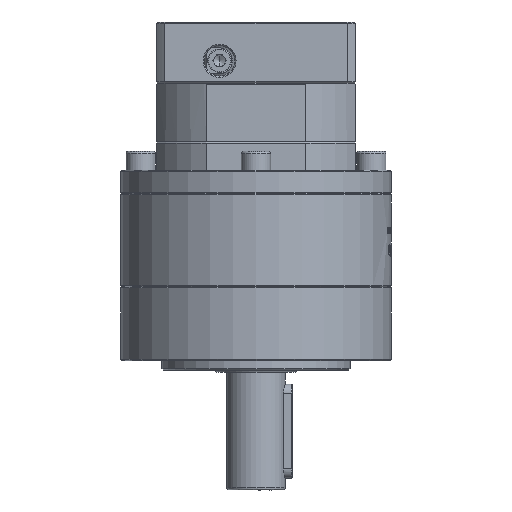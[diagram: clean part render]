
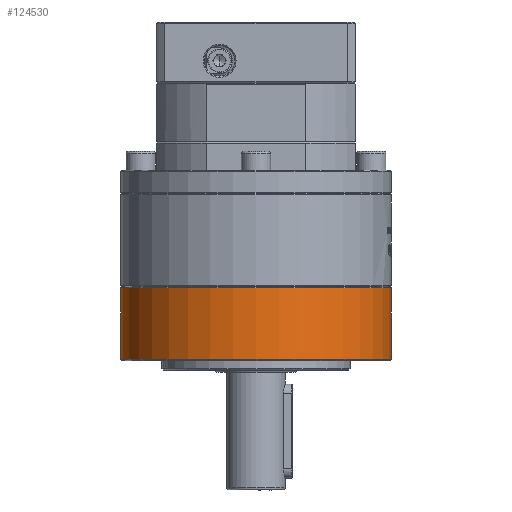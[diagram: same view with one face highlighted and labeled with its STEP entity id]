
A CAD part, left-side view. The second image highlights one B-rep face of the part: STEP entity #124530.
In plain terms, the highlighted cylindrical face has radius 57.5 mm (diameter 115 mm), a partial arc.
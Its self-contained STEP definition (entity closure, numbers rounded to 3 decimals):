
#1992 = VECTOR ( 'NONE', #122100, 1000. ) ;
#2300 = CARTESIAN_POINT ( 'NONE',  ( 90.36, 10.563, -63.696 ) ) ;
#5293 = VECTOR ( 'NONE', #5802, 1000. ) ;
#5802 = DIRECTION ( 'NONE',  ( 0., 0., 1. ) ) ;
#9726 = VERTEX_POINT ( 'NONE', #88832 ) ;
#12332 = CIRCLE ( 'NONE', #54423, 57.5 ) ;
#15391 = EDGE_CURVE ( 'NONE', #90323, #50267, #64400, .T. ) ;
#18727 = EDGE_CURVE ( 'NONE', #59708, #90323, #111430, .T. ) ;
#24764 = LINE ( 'NONE', #64148, #1992 ) ;
#25916 = CARTESIAN_POINT ( 'NONE',  ( 90.36, -46.937, -81.696 ) ) ;
#31600 = CARTESIAN_POINT ( 'NONE',  ( 90.36, -46.937, -63.696 ) ) ;
#34227 = EDGE_LOOP ( 'NONE', ( #79940, #55243, #116475, #99922 ) ) ;
#43981 = CARTESIAN_POINT ( 'NONE',  ( 90.36, 10.563, -81.696 ) ) ;
#44475 = EDGE_CURVE ( 'NONE', #59708, #9726, #12332, .T. ) ;
#50267 = VERTEX_POINT ( 'NONE', #53508 ) ;
#50733 = DIRECTION ( 'NONE',  ( 0., -1., 0. ) ) ;
#53508 = CARTESIAN_POINT ( 'NONE',  ( 90.36, -104.437, -63.696 ) ) ;
#54423 = AXIS2_PLACEMENT_3D ( 'NONE', #97726, #68988, #50733 ) ;
#55178 = DIRECTION ( 'NONE',  ( 0., 0., 1. ) ) ;
#55243 = ORIENTED_EDGE ( 'NONE', *, *, #44475, .T. ) ;
#59708 = VERTEX_POINT ( 'NONE', #105998 ) ;
#64148 = CARTESIAN_POINT ( 'NONE',  ( 90.36, -104.437, -81.696 ) ) ;
#64400 = CIRCLE ( 'NONE', #124883, 57.5 ) ;
#67682 = EDGE_CURVE ( 'NONE', #9726, #50267, #24764, .T. ) ;
#68988 = DIRECTION ( 'NONE',  ( 0., 0., 1. ) ) ;
#70892 = AXIS2_PLACEMENT_3D ( 'NONE', #25916, #55178, #93263 ) ;
#79908 = DIRECTION ( 'NONE',  ( 0., 0., 1. ) ) ;
#79940 = ORIENTED_EDGE ( 'NONE', *, *, #18727, .F. ) ;
#88832 = CARTESIAN_POINT ( 'NONE',  ( 90.36, -104.437, -94.196 ) ) ;
#90317 = CYLINDRICAL_SURFACE ( 'NONE', #70892, 57.5 ) ;
#90323 = VERTEX_POINT ( 'NONE', #2300 ) ;
#93263 = DIRECTION ( 'NONE',  ( 0., -1., 0. ) ) ;
#97726 = CARTESIAN_POINT ( 'NONE',  ( 90.36, -46.937, -94.196 ) ) ;
#99922 = ORIENTED_EDGE ( 'NONE', *, *, #15391, .F. ) ;
#105998 = CARTESIAN_POINT ( 'NONE',  ( 90.36, 10.563, -94.196 ) ) ;
#111430 = LINE ( 'NONE', #43981, #5293 ) ;
#113014 = FACE_OUTER_BOUND ( 'NONE', #34227, .T. ) ;
#116475 = ORIENTED_EDGE ( 'NONE', *, *, #67682, .T. ) ;
#119692 = DIRECTION ( 'NONE',  ( 0., 1., 0. ) ) ;
#122100 = DIRECTION ( 'NONE',  ( 0., 0., 1. ) ) ;
#124530 = ADVANCED_FACE ( 'NONE', ( #113014 ), #90317, .T. ) ;
#124883 = AXIS2_PLACEMENT_3D ( 'NONE', #31600, #79908, #119692 ) ;
